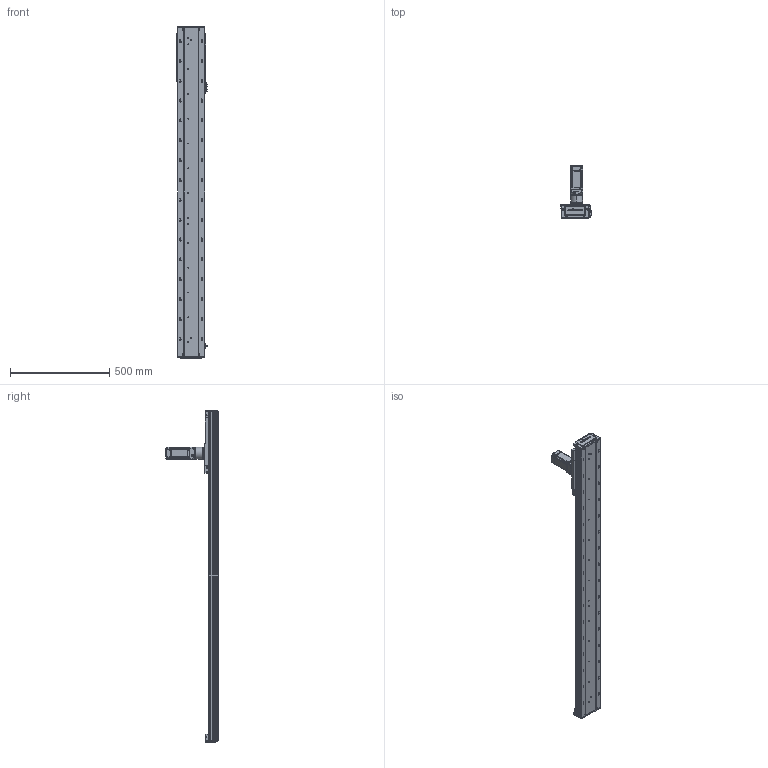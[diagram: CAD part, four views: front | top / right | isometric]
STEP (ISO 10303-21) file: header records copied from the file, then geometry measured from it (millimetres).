
FILE_DESCRIPTION (( 'STEP AP203' ), '1' );
FILE_NAME ('RY140-C-250-UK.SLDASM_1300.step', '2022-03-12T01:59:06', ( '' ), ( '' ), 'SwSTEP 2.0', 'SolidWorks 2016', '' );
FILE_SCHEMA (( 'CONFIG_CONTROL_DESIGN' ));
Length unit declared in the file: millimetre
Products named in the file (12): 140蚥薯蝶輸; RY140-300齿条模组型材底座_1300; 60ZDF珨撰俋倛芞T1 200W M4; RY140-C-250-UK.SLDASM_1300; RY140-喘謫萇儂覃誹啣; RY120外置感应片(140共用）; 絳寢賑輸EGH15; 15; RY140-絳寢EGH15-300-MK_1300; RY140-喘沭賑輸; RY140-喘沭裔啣; 覜茼ん672
Assembly tree (21 placements, depth 2):
  RY140-C-250-UK.SLDASM_1300
    RY140-300齿条模组型材底座_1300
    RY140-絳寢EGH15-300-MK_1300  x2
    絳寢賑輸EGH15  x6
    RY140-喘沭裔啣  x2
    覜茼ん672  x3
    RY140-喘沭賑輸
    RY120外置感应片(140共用）
    RY140-喘謫萇儂覃誹啣
    140蚥薯蝶輸  x2
    60ZDF珨撰俋倛芞T1 200W M4
    15
Bounding box: 153.7 x 263.5 x 1672 mm (x, y, z)
Volume: 5782816.7 mm3; surface area: 1538057.9 mm2
Topology: 21 solids, 21 shells, 3564 faces, 9494 edges, 6136 vertices
Faces by surface type: plane 1662, cylinder 1600, cone 256, bspline 46
Entity records: 80631 total; most frequent: CARTESIAN_POINT 17704, DIRECTION 12819, ORIENTED_EDGE 12786, EDGE_CURVE 6393, AXIS2_PLACEMENT_3D 4592, VERTEX_POINT 4185, VECTOR 3635, LINE 3635
